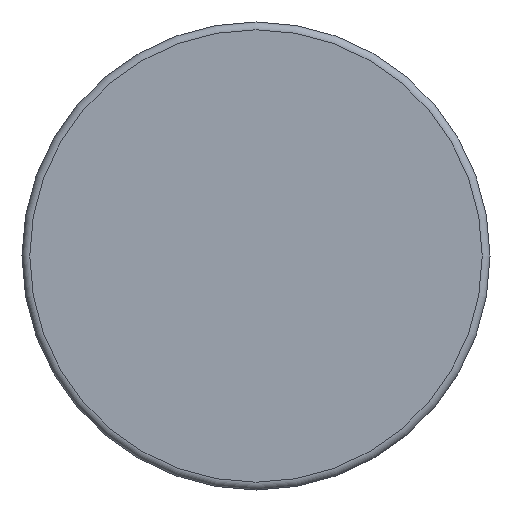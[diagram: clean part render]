
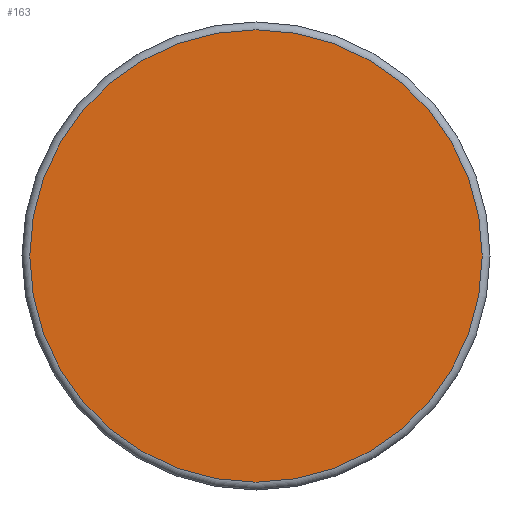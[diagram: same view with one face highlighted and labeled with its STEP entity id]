
A CAD part, front view. The second image highlights one B-rep face of the part: STEP entity #163.
In plain terms, the highlighted planar face has unit normal (0, -1, 0).
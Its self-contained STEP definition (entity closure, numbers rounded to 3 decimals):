
#163 = ADVANCED_FACE( '', ( #330 ), #331, .F. );
#330 = FACE_OUTER_BOUND( '', #530, .T. );
#331 = PLANE( '', #531 );
#530 = EDGE_LOOP( '', ( #767 ) );
#531 = AXIS2_PLACEMENT_3D( '', #768, #769, #770 );
#767 = ORIENTED_EDGE( '', *, *, #1157, .T. );
#768 = CARTESIAN_POINT( '', ( 29., 0., 0. ) );
#769 = DIRECTION( '', ( 0., 1., 0. ) );
#770 = DIRECTION( '', ( 0., 0., 1. ) );
#1157 = EDGE_CURVE( '', #1346, #1346, #1347, .T. );
#1346 = VERTEX_POINT( '', #1672 );
#1347 = CIRCLE( '', #1673, 29. );
#1672 = CARTESIAN_POINT( '', ( 0., 0., -29. ) );
#1673 = AXIS2_PLACEMENT_3D( '', #2039, #2040, #2041 );
#2039 = CARTESIAN_POINT( '', ( 0., 0., 0. ) );
#2040 = DIRECTION( '', ( 0., -1., 0. ) );
#2041 = DIRECTION( '', ( 0., 0., -1. ) );
